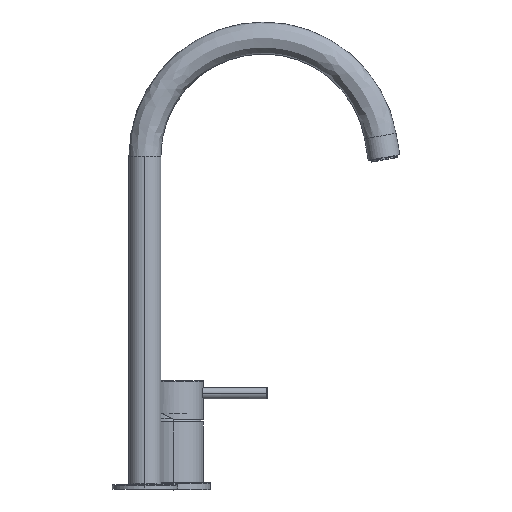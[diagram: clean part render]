
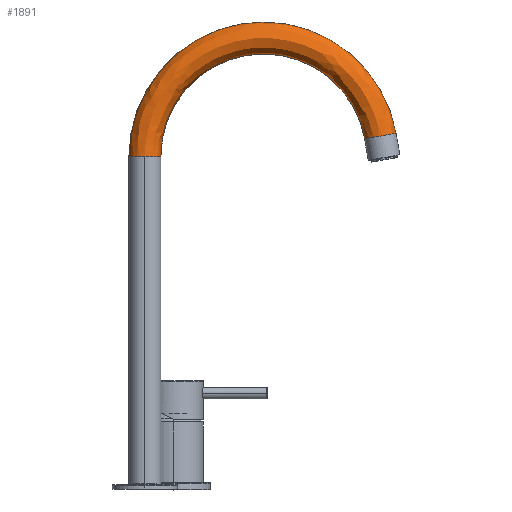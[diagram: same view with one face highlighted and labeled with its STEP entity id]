
A CAD part, top view. The second image highlights one B-rep face of the part: STEP entity #1891.
In plain terms, the highlighted free-form (B-spline) face has degree [3, 3] with [4, 4] control points.
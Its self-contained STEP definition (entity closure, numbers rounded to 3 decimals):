
#1891 = ADVANCED_FACE ( 'NONE', ( #105998 ), #122482, .T. ) ;
#2674 = CARTESIAN_POINT ( 'NONE',  ( 125.342, 274.718, 0. ) ) ;
#10960 = AXIS2_PLACEMENT_3D ( 'NONE', #91057, #141453, #26378 ) ;
#16960 = CARTESIAN_POINT ( 'NONE',  ( 130.929, 116.342, 22. ) ) ;
#17782 = CARTESIAN_POINT ( 'NONE',  ( 110.158, 234.138, 0. ) ) ;
#21649 = DIRECTION ( 'NONE',  ( 0.985, 0.174, 0. ) ) ;
#26378 = DIRECTION ( 'NONE',  ( -1., 0., 0. ) ) ;
#27064 = CIRCLE ( 'NONE', #10960, 11. ) ;
#28739 = CARTESIAN_POINT ( 'NONE',  ( -31., 104.1, 0. ) ) ;
#30371 = CARTESIAN_POINT ( 'NONE',  ( 110.158, 234.138, 22. ) ) ;
#37554 = EDGE_CURVE ( 'NONE', #96531, #79178, #111994, .T. ) ;
#41335 = CARTESIAN_POINT ( 'NONE',  ( -31., 261.04, 22. ) ) ;
#43553 = ORIENTED_EDGE ( 'NONE', *, *, #46748, .T. ) ;
#45575 = DIRECTION ( 'NONE',  ( 0., 0., -1. ) ) ;
#46748 = EDGE_CURVE ( 'NONE', #79178, #124199, #49511, .T. ) ;
#46804 = CARTESIAN_POINT ( 'NONE',  ( 152.595, 120.162, 0. ) ) ;
#48331 = CARTESIAN_POINT ( 'NONE',  ( 130.929, 116.342, 0. ) ) ;
#49511 = CIRCLE ( 'NONE', #95082, 70.5 ) ;
#53894 = AXIS2_PLACEMENT_3D ( 'NONE', #134651, #45575, #96815 ) ;
#54800 = CARTESIAN_POINT ( 'NONE',  ( -9., 104.1, 0. ) ) ;
#55604 = CARTESIAN_POINT ( 'NONE',  ( 130.929, 116.342, 0. ) ) ;
#61098 = ORIENTED_EDGE ( 'NONE', *, *, #37554, .T. ) ;
#62122 = CARTESIAN_POINT ( 'NONE',  ( -31., 104.1, 0. ) ) ;
#65788 = CARTESIAN_POINT ( 'NONE',  ( -9., 223.713, 0. ) ) ;
#67417 = CARTESIAN_POINT ( 'NONE',  ( -9., 104.1, 22. ) ) ;
#72808 = AXIS2_PLACEMENT_3D ( 'NONE', #150159, #74575, #21649 ) ;
#74575 = DIRECTION ( 'NONE',  ( -0.174, 0.985, 0. ) ) ;
#77295 = DIRECTION ( 'NONE',  ( 0., 1., 0. ) ) ;
#78962 = DIRECTION ( 'NONE',  ( -1., 0., 0. ) ) ;
#79178 = VERTEX_POINT ( 'NONE', #164473 ) ;
#79761 = CARTESIAN_POINT ( 'NONE',  ( -20., 104.1, 0. ) ) ;
#84875 = VERTEX_POINT ( 'NONE', #46804 ) ;
#85239 = AXIS2_PLACEMENT_3D ( 'NONE', #79761, #77295, #78962 ) ;
#86257 = DIRECTION ( 'NONE',  ( -1., 0., 0. ) ) ;
#88689 = ORIENTED_EDGE ( 'NONE', *, *, #138527, .F. ) ;
#91057 = CARTESIAN_POINT ( 'NONE',  ( -20., 104.1, 0. ) ) ;
#95082 = AXIS2_PLACEMENT_3D ( 'NONE', #137446, #150078, #86257 ) ;
#96531 = VERTEX_POINT ( 'NONE', #135321 ) ;
#96815 = DIRECTION ( 'NONE',  ( -1., 0., 0. ) ) ;
#97126 = ORIENTED_EDGE ( 'NONE', *, *, #121063, .T. ) ;
#104318 = EDGE_LOOP ( 'NONE', ( #61098, #43553, #97126, #88689, #121131 ) ) ;
#105188 = CARTESIAN_POINT ( 'NONE',  ( 152.595, 120.162, 0. ) ) ;
#105998 = FACE_OUTER_BOUND ( 'NONE', #104318, .T. ) ;
#106827 = CARTESIAN_POINT ( 'NONE',  ( -31., 261.04, 0. ) ) ;
#107609 = CIRCLE ( 'NONE', #72808, 11. ) ;
#111994 = CIRCLE ( 'NONE', #85239, 11. ) ;
#113188 = CIRCLE ( 'NONE', #53894, 92.5 ) ;
#118571 = CARTESIAN_POINT ( 'NONE',  ( -9., 223.713, 22. ) ) ;
#119383 = CARTESIAN_POINT ( 'NONE',  ( -31., 104.1, 22. ) ) ;
#121063 = EDGE_CURVE ( 'NONE', #124199, #84875, #107609, .T. ) ;
#121131 = ORIENTED_EDGE ( 'NONE', *, *, #164125, .T. ) ;
#122482 =( BOUNDED_SURFACE ( )  B_SPLINE_SURFACE ( 3, 3, ( 
 ( #28739, #106827, #2674, #105188 ),
 ( #119383, #41335, #131191, #145500 ),
 ( #67417, #118571, #30371, #16960 ),
 ( #54800, #65788, #17782, #55604 ) ),
 .UNSPECIFIED., .F., .F., .F. ) 
 B_SPLINE_SURFACE_WITH_KNOTS ( ( 4, 4 ),
 ( 4, 4 ),
 ( 0., 1. ),
 ( 0., 1. ),
 .UNSPECIFIED. ) 
 GEOMETRIC_REPRESENTATION_ITEM ( )  RATIONAL_B_SPLINE_SURFACE ( (
 ( 1., 0.391, 0.391, 1.),
 ( 0.333, 0.13, 0.13, 0.333),
 ( 0.333, 0.13, 0.13, 0.333),
 ( 1., 0.391, 0.391, 1.) ) ) 
 REPRESENTATION_ITEM ( '' )  SURFACE ( )  );
#124199 = VERTEX_POINT ( 'NONE', #48331 ) ;
#131191 = CARTESIAN_POINT ( 'NONE',  ( 125.342, 274.718, 22. ) ) ;
#134651 = CARTESIAN_POINT ( 'NONE',  ( 61.5, 104.1, 0. ) ) ;
#135321 = CARTESIAN_POINT ( 'NONE',  ( -20., 104.1, 11. ) ) ;
#137446 = CARTESIAN_POINT ( 'NONE',  ( 61.5, 104.1, 0. ) ) ;
#138527 = EDGE_CURVE ( 'NONE', #156307, #84875, #113188, .T. ) ;
#141453 = DIRECTION ( 'NONE',  ( 0., 1., 0. ) ) ;
#145500 = CARTESIAN_POINT ( 'NONE',  ( 152.595, 120.162, 22. ) ) ;
#150078 = DIRECTION ( 'NONE',  ( 0., 0., -1. ) ) ;
#150159 = CARTESIAN_POINT ( 'NONE',  ( 141.762, 118.252, 0. ) ) ;
#156307 = VERTEX_POINT ( 'NONE', #62122 ) ;
#164125 = EDGE_CURVE ( 'NONE', #156307, #96531, #27064, .T. ) ;
#164473 = CARTESIAN_POINT ( 'NONE',  ( -9., 104.1, 0. ) ) ;
